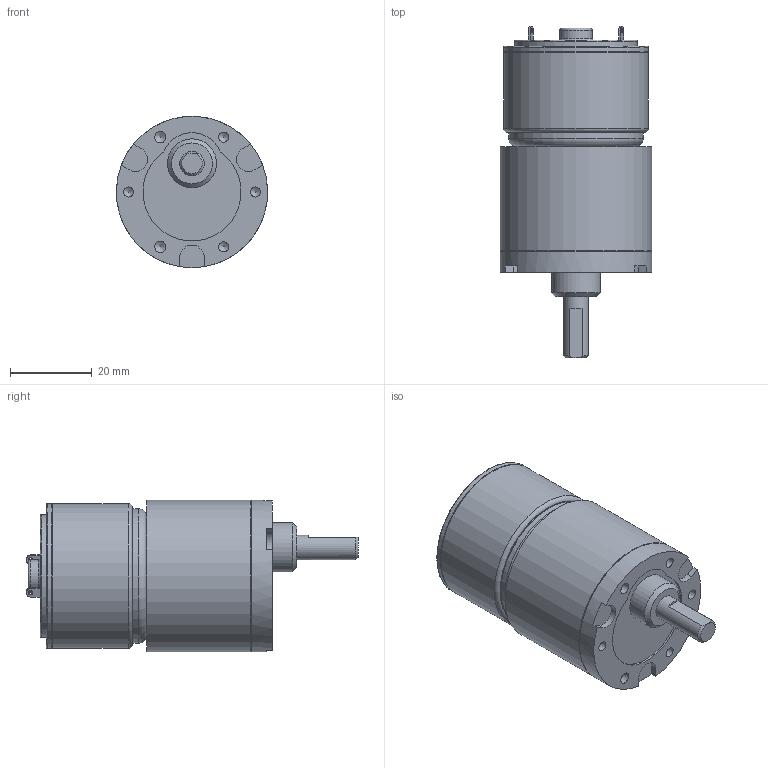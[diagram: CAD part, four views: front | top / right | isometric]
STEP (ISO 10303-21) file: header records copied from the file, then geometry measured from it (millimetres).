
FILE_DESCRIPTION((''),'2;1');
FILE_NAME('C:\Documents and Settings\SSEGAWA\デスクトップ\TP-3526E-KS-5.STP','2013-07-09T16:51:51',('SSEGAWA'),(''),'Autodesk Inventor 2010','Autodesk Inventor 2010','');
FILE_SCHEMA(('CONFIG_CONTROL_DESIGN'));
Length unit declared in the file: millimetre
Products named in the file (3): tp_3526e_ks_5; ks_5; tp_3526e
Assembly tree (2 placements, depth 2):
  tp_3526e_ks_5
    ks_5
    tp_3526e
Bounding box: 37 x 81.2 x 37 mm (x, y, z)
Volume: 58537.9 mm3; surface area: 11691.6 mm2
Topology: 3 solids, 3 shells, 91 faces, 203 edges, 133 vertices
Faces by surface type: plane 38, cylinder 23, bspline 22, torus 5, cone 3
Full cylindrical faces by diameter (mm): 1.1 x1, 2 x1, 2.4 x1, 5 x1, 6 x1, 8 x1, 10 x1, 12 x1, 30 x1, 33 x1, 35 x1, 35.4 x2, 36.6 x1, 37 x2
Entity records: 2560 total; most frequent: CARTESIAN_POINT 798, DIRECTION 363, ORIENTED_EDGE 268, AXIS2_PLACEMENT_3D 157, EDGE_LOOP 155, EDGE_CURVE 134, VERTEX_POINT 109, FACE_OUTER_BOUND 91
